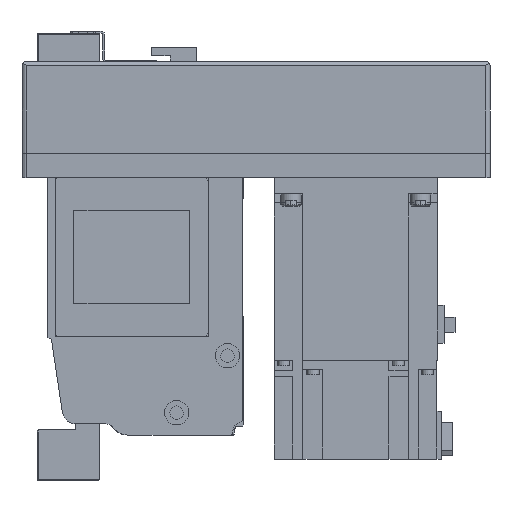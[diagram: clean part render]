
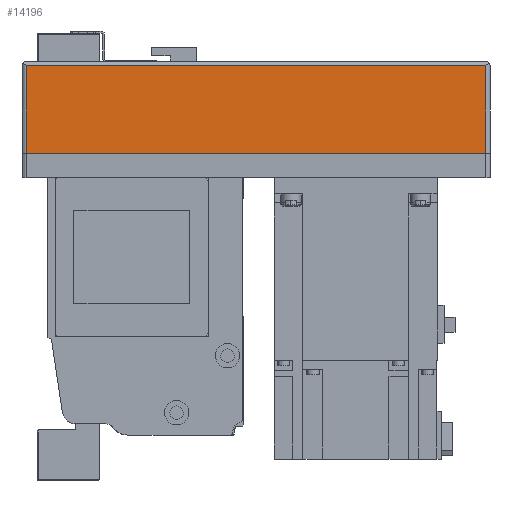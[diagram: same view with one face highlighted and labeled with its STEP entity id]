
A CAD part, left-side view. The second image highlights one B-rep face of the part: STEP entity #14196.
In plain terms, the highlighted planar face has unit normal (-1, 0, 0) as drawn and (0, -1, 0) by its records, which use the part's own axes.
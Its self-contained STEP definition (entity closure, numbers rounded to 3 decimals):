
#2441=ORIENTED_EDGE('',*,*,#5814,.F.);
#2442=ORIENTED_EDGE('',*,*,#5817,.T.);
#2443=ORIENTED_EDGE('',*,*,#5818,.T.);
#2444=ORIENTED_EDGE('',*,*,#5819,.F.);
#5814=EDGE_CURVE('',#7631,#7632,#9121,.T.);
#5817=EDGE_CURVE('',#7631,#7634,#9123,.T.);
#5818=EDGE_CURVE('',#7634,#7635,#9124,.T.);
#5819=EDGE_CURVE('',#7632,#7635,#9125,.T.);
#7631=VERTEX_POINT('',#22285);
#7632=VERTEX_POINT('',#22287);
#7634=VERTEX_POINT('',#22293);
#7635=VERTEX_POINT('',#22295);
#9121=LINE('',#22286,#10434);
#9123=LINE('',#22292,#10436);
#9124=LINE('',#22294,#10437);
#9125=LINE('',#22296,#10438);
#10434=VECTOR('',#17776,1000.);
#10436=VECTOR('',#17782,1000.);
#10437=VECTOR('',#17783,1000.);
#10438=VECTOR('',#17784,1000.);
#11558=EDGE_LOOP('',(#2441,#2442,#2443,#2444));
#12657=FACE_BOUND('',#11558,.T.);
#13606=PLANE('',#15240);
#14196=ADVANCED_FACE('',(#12657),#13606,.T.);
#15240=AXIS2_PLACEMENT_3D('',#22291,#17780,#17781);
#17776=DIRECTION('',(0.,0.,1.));
#17780=DIRECTION('',(0.,-1.,0.));
#17781=DIRECTION('',(0.,0.,-1.));
#17782=DIRECTION('',(1.,0.,0.));
#17783=DIRECTION('',(0.,0.,1.));
#17784=DIRECTION('',(1.,0.,0.));
#22285=CARTESIAN_POINT('',(-228.,-54.,-55.));
#22286=CARTESIAN_POINT('',(-228.,-54.,-57.));
#22287=CARTESIAN_POINT('',(-228.,-54.,-12.));
#22291=CARTESIAN_POINT('',(-228.,-54.,-57.));
#22292=CARTESIAN_POINT('',(-230.,-54.,-55.));
#22293=CARTESIAN_POINT('',(-2.,-54.,-55.));
#22294=CARTESIAN_POINT('',(-2.,-54.,-57.));
#22295=CARTESIAN_POINT('',(-2.,-54.,-12.));
#22296=CARTESIAN_POINT('',(-228.,-54.,-12.));
